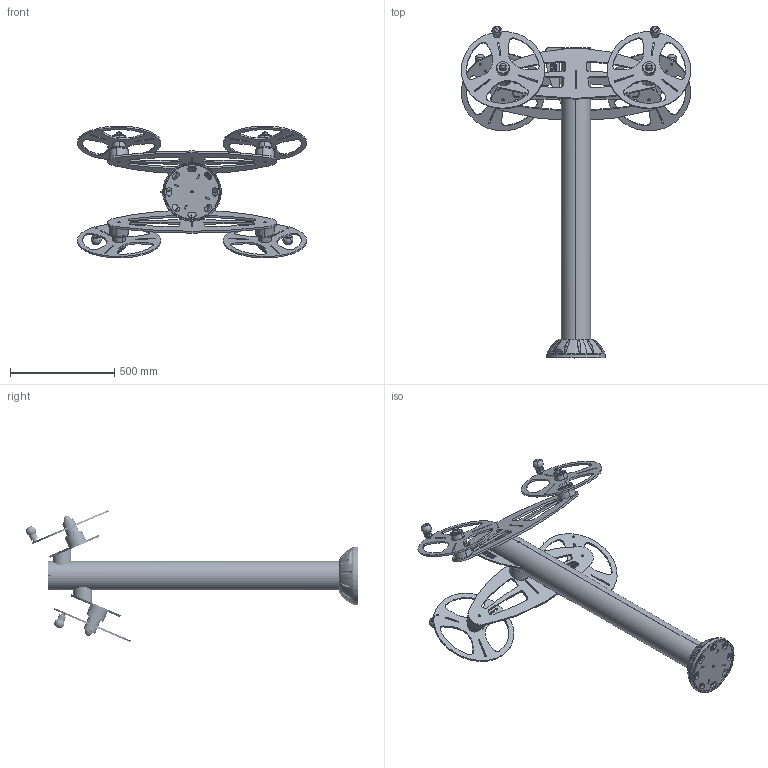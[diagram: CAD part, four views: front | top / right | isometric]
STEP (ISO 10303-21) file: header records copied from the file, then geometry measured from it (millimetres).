
FILE_DESCRIPTION (( 'STEP AP203' ), '1' );
FILE_NAME ('S0206A - VOLANTS DOUBLE V1.0.STEP', '2020-03-27T13:57:31', ( '' ), ( '' ), 'SwSTEP 2.0', 'SolidWorks 2019', '' );
FILE_SCHEMA (( 'CONFIG_CONTROL_DESIGN' ));
Length unit declared in the file: millimetre
Products named in the file (38): SF1101 - Ecrou frein M10 A2; PU-TOLROND89-20 - Rondelle pour tube D.89 percée d.20 V1.0; SB0112 - Vis Torx teton central M8x20_M8x20; TROSM-90-50 - Tube D.88,9x3 L=50 V1.0_Tube palier avant-v‚lo elliptique-sans soudure; SA1434 - Axe acier D.25 L147 V1.0; PLATINE BASE ASS V2.0; PU-TOLGOPL - Gousset platine V2.0; Ass Joint torique Volant - Barreur V1.0; SRR0816 - Roulement  6204 47-20-14; SCH1806.A - Chapeau D135 V1.2; VOLANT-S0206 - VOLANT V1.1; SR0427 - Rondelle plastique bouchon bague D60 d.20; PALIER-S0206 - PALIER VOLANTS V1.1; SC0306C - Petit capuchon en nylon 36 mm; SC0304 - CACHE PLATINE ASS V4.0; SB0130 - Joint torique 25X6 _d.28 f.7; SR0416 - Rondelle plate petite M10 A2 ext 22mm; TOLLOCOL - Tole logo colonne V1.0; TOLSUPVOL-S0206 - Support volants V2.2; SBA1601 - Bague 6204 L60 V1.0; S0206A - VOLANTS DOUBLE V1.0; TOLVOLA-S0206.B - Volant D.400 V1.2; PU-TROCB1470BAD - Colonne base D.139,7x3 Ht1470 Barreur Double V1.0; BATI-S0206A - BATI VOLANTS DOUBLE V1.0; SB0129 - Joint torique 18 X 6 _d.28 f.7; SP0608 - Poignée plastique tournante ELESA 247011; TROSM90-120-23° - Tube D.88,9x3 L=120 coupe à 23° V1.0; SF1113 - Ecrou M10 A2_default; SC0306B - Base pour capuchon en nylon 36mm; SC0304 - Demi cache platine D140 V4.0; PU-TOLPLAT - Platine base V1.0
Assembly tree (108 placements, depth 4):
  S0206A - VOLANTS DOUBLE V1.0
    BATI-S0206A - BATI VOLANTS DOUBLE V1.0
      PLATINE BASE ASS V2.0
        PU-TOLPLAT - Platine base V1.0
        PU-TOLGOPL - Gousset platine V2.0  x4
      PU-TROCB1470BAD - Colonne base D.139,7x3 Ht1470 Barreur Double V1.0
      SCH1806.A - Chapeau D135 V1.2
      TOLLOCOL - Tole logo colonne V1.0
      PALIER-S0206 - PALIER VOLANTS V1.1
        TROSM-90-50 - Tube D.88,9x3 L=50 V1.0_Tube palier avant-v‚lo elliptique-sans soudure
        SA1434 - Axe acier D.25 L147 V1.0
        PU-TOLROND89-20 - Rondelle pour tube D.89 percée d.20 V1.0
      PALIER-S0206 - PALIER VOLANTS V1.1
        TROSM-90-50 - Tube D.88,9x3 L=50 V1.0_Tube palier avant-v‚lo elliptique-sans soudure
        SA1434 - Axe acier D.25 L147 V1.0
        PU-TOLROND89-20 - Rondelle pour tube D.89 percée d.20 V1.0
      TROSM90-120-23° - Tube D.88,9x3 L=120 coupe à 23° V1.0  x2
      TOLSUPVOL-S0206 - Support volants V2.2  x2
      TROSM-90-50 - Tube D.88,9x3 L=50 V1.0_Tube palier avant-v‚lo elliptique-sans soudure  x2
      PU-TOLROND89-20 - Rondelle pour tube D.89 percée d.20 V1.0  x2
      SA1434 - Axe acier D.25 L147 V1.0  x2
    SC0306C - Petit capuchon en nylon 36 mm  x4
    SC0306B - Base pour capuchon en nylon 36mm  x4
    SR0427 - Rondelle plastique bouchon bague D60 d.20  x8
    SRR0816 - Roulement  6204 47-20-14  x8
    SF1101 - Ecrou frein M10 A2  x4
    SR0416 - Rondelle plate petite M10 A2 ext 22mm  x4
    SC0304 - CACHE PLATINE ASS V4.0
      SC0304 - Demi cache platine D140 V4.0
      SB0112 - Vis Torx teton central M8x20_M8x20  x2
    SP0608 - Poignée plastique tournante ELESA 247011  x4
    SF1113 - Ecrou M10 A2_default  x4
    VOLANT-S0206 - VOLANT V1.1
      TOLVOLA-S0206.B - Volant D.400 V1.2
      SBA1601 - Bague 6204 L60 V1.0
    VOLANT-S0206 - VOLANT V1.1
      TOLVOLA-S0206.B - Volant D.400 V1.2
      SBA1601 - Bague 6204 L60 V1.0
    VOLANT-S0206 - VOLANT V1.1
      TOLVOLA-S0206.B - Volant D.400 V1.2
      SBA1601 - Bague 6204 L60 V1.0
    VOLANT-S0206 - VOLANT V1.1
      TOLVOLA-S0206.B - Volant D.400 V1.2
      SBA1601 - Bague 6204 L60 V1.0
    Ass Joint torique Volant - Barreur V1.0
      SB0130 - Joint torique 25X6 _d.28 f.7  x2
      SB0129 - Joint torique 18 X 6 _d.28 f.7  x3
    Ass Joint torique Volant - Barreur V1.0
      SB0130 - Joint torique 25X6 _d.28 f.7  x2
      SB0129 - Joint torique 18 X 6 _d.28 f.7  x3
    Ass Joint torique Volant - Barreur V1.0
      SB0130 - Joint torique 25X6 _d.28 f.7  x2
      SB0129 - Joint torique 18 X 6 _d.28 f.7  x3
    Ass Joint torique Volant - Barreur V1.0
      SB0130 - Joint torique 25X6 _d.28 f.7  x2
      SB0129 - Joint torique 18 X 6 _d.28 f.7  x3
Bounding box: 1099.96 x 1591.6 x 632.46 mm (x, y, z)
Volume: 9336314.8 mm3; surface area: 3537657.9 mm2
Topology: 128 solids, 128 shells, 2987 faces, 7197 edges, 4552 vertices
Faces by surface type: cylinder 926, plane 641, cone 482, torus 436, bspline 342, sphere 160
Entity records: 132255 total; most frequent: CARTESIAN_POINT 101557, ORIENTED_EDGE 5480, DIRECTION 4713, EDGE_CURVE 2740, AXIS2_PLACEMENT_3D 1938, VERTEX_POINT 1750, EDGE_LOOP 1276, ADVANCED_FACE 1096
